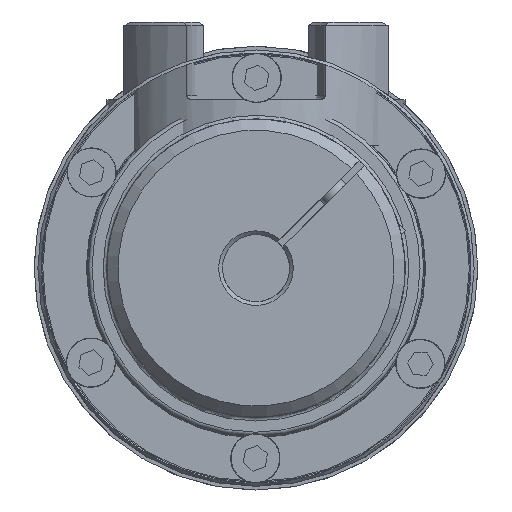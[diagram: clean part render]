
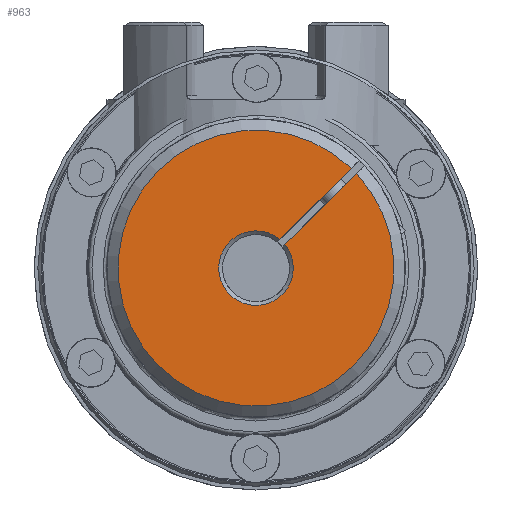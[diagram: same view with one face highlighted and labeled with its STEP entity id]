
A CAD part, left-side view. The second image highlights one B-rep face of the part: STEP entity #963.
In plain terms, the highlighted planar face has unit normal (-1, 0, 0) as drawn and (0, 0, -1) by its records, which use the part's own axes.
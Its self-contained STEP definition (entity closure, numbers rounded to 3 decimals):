
#963 = ADVANCED_FACE( '', ( #2093 ), #2094, .T. );
#2093 = FACE_OUTER_BOUND( '', #3181, .T. );
#2094 = PLANE( '', #3182 );
#3181 = EDGE_LOOP( '', ( #5782, #5783, #5784, #5785 ) );
#3182 = AXIS2_PLACEMENT_3D( '', #5786, #5787, #5788 );
#5782 = ORIENTED_EDGE( '', *, *, #6866, .F. );
#5783 = ORIENTED_EDGE( '', *, *, #6828, .T. );
#5784 = ORIENTED_EDGE( '', *, *, #6867, .T. );
#5785 = ORIENTED_EDGE( '', *, *, #6868, .T. );
#5786 = CARTESIAN_POINT( '', ( 0., 0., 0. ) );
#5787 = DIRECTION( '', ( 0., 0., -1. ) );
#5788 = DIRECTION( '', ( 0., -1., 0. ) );
#6828 = EDGE_CURVE( '', #8158, #8160, #8162, .T. );
#6866 = EDGE_CURVE( '', #8158, #8222, #8223, .F. );
#6867 = EDGE_CURVE( '', #8160, #8224, #8225, .T. );
#6868 = EDGE_CURVE( '', #8224, #8222, #8226, .F. );
#8158 = VERTEX_POINT( '', #10491 );
#8160 = VERTEX_POINT( '', #10496 );
#8162 = CIRCLE( '', #10501, 37. );
#8222 = VERTEX_POINT( '', #10627 );
#8223 = LINE( '', #10628, #10629 );
#8224 = VERTEX_POINT( '', #10630 );
#8225 = LINE( '', #10631, #10632 );
#8226 = CIRCLE( '', #10633, 10. );
#10491 = CARTESIAN_POINT( '', ( -36.986, 1., 0. ) );
#10496 = CARTESIAN_POINT( '', ( -36.986, -1., 0. ) );
#10501 = AXIS2_PLACEMENT_3D( '', #12138, #12139, #12140 );
#10627 = CARTESIAN_POINT( '', ( -9.95, 1., 0. ) );
#10628 = CARTESIAN_POINT( '', ( -40., 1., 0. ) );
#10629 = VECTOR( '', #12204, 1000. );
#10630 = CARTESIAN_POINT( '', ( -9.95, -1., 0. ) );
#10631 = CARTESIAN_POINT( '', ( 0., -1., 0. ) );
#10632 = VECTOR( '', #12205, 1000. );
#10633 = AXIS2_PLACEMENT_3D( '', #12206, #12207, #12208 );
#12138 = CARTESIAN_POINT( '', ( 0., 0., 0. ) );
#12139 = DIRECTION( '', ( 0., 0., -1. ) );
#12140 = DIRECTION( '', ( -1., 0., 0. ) );
#12204 = DIRECTION( '', ( -1., 0., 0. ) );
#12205 = DIRECTION( '', ( 1., 0., 0. ) );
#12206 = CARTESIAN_POINT( '', ( 0., 0., 0. ) );
#12207 = DIRECTION( '', ( 0., 0., -1. ) );
#12208 = DIRECTION( '', ( -1., 0., 0. ) );
